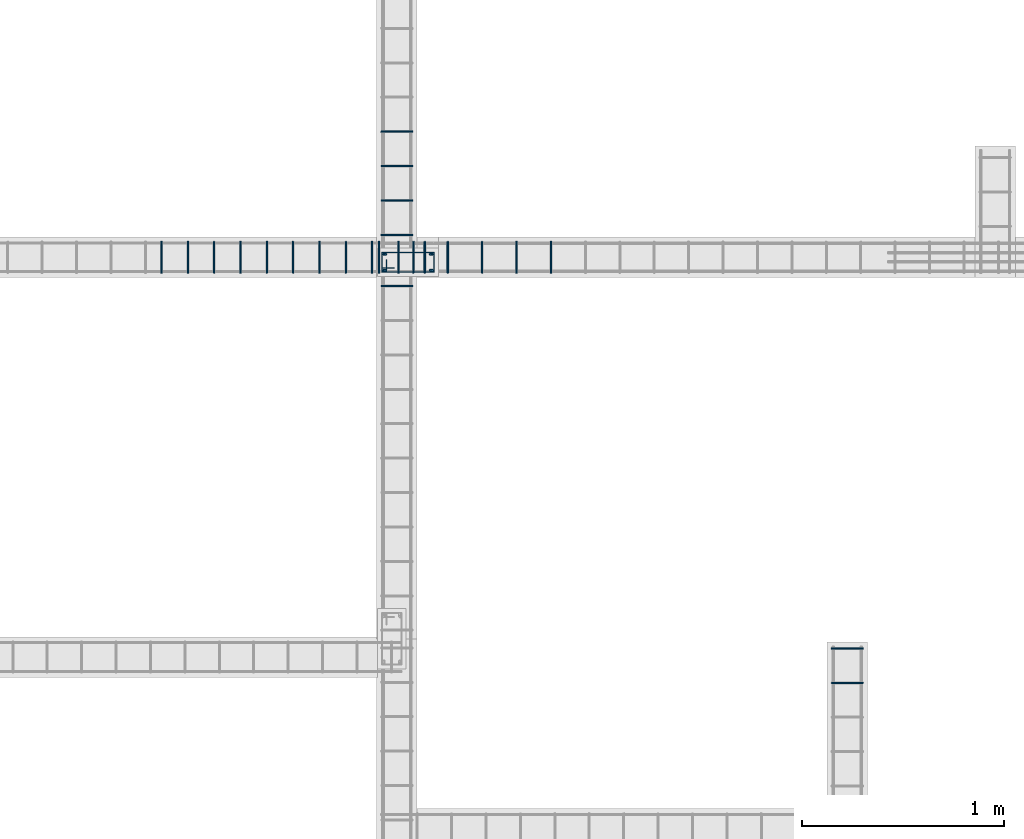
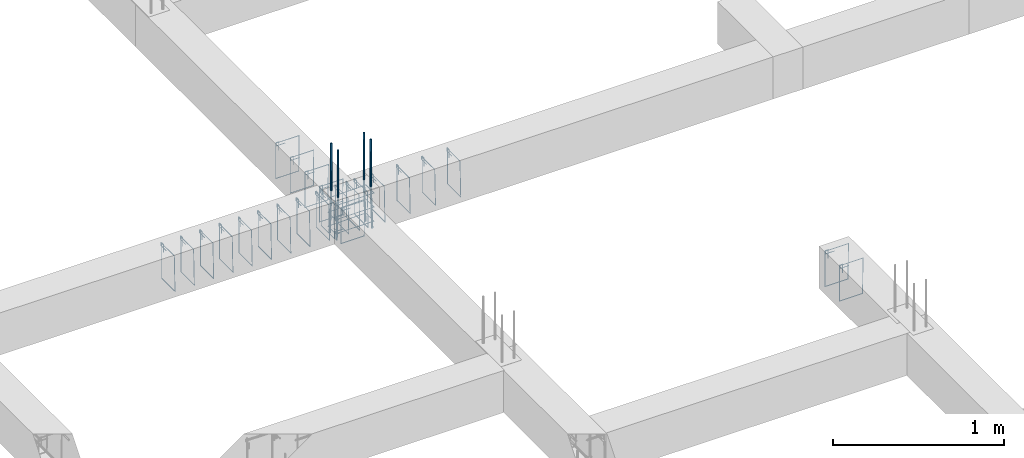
# One storey, part 49 of 150: 31 reinforcing bars.
"""IFC4 building model written with IfcOpenShell, lengths in centimetres."""

from ifc_helpers import new_model, entity, si_unit, derived_unit, frame, origin_with_axes, place, context, project, spatial, source, transform, mapped, element, save


model = new_model("IFC4")

# Units and contexts
model_context = context("Model", 3, precision=1e-05, world=origin_with_axes(), identifier="Body")
ifc_project = project(units=[si_unit("LENGTHUNIT", "METRE", prefix="CENTI"), si_unit("VOLUMEUNIT", "CUBIC_METRE"), si_unit("AREAUNIT", "SQUARE_METRE"), si_unit("POWERUNIT", "WATT"), si_unit("LUMINOUSFLUXUNIT", "LUMEN"), si_unit("ELECTRICCURRENTUNIT", "AMPERE"), si_unit("PRESSUREUNIT", "PASCAL", prefix="KILO"), si_unit("MASSUNIT", "GRAM", prefix="KILO"), si_unit("PLANEANGLEUNIT", "RADIAN"), derived_unit("VOLUMETRICFLOWRATEUNIT", [(si_unit("LENGTHUNIT", "METRE"), 3), (si_unit("TIMEUNIT", "SECOND"), -1)])], contexts=[model_context])

# Site, building, storey
site_placement = place(None, frame((-4000.0, 0.0, 0.0), z_axis=(0.0, 0.0, 1.0), x_axis=(1.0, 0.0, 0.0)))
site = spatial("IfcSite", under=ifc_project, at=site_placement, Name="PADRÃO")
building_placement = place(site_placement, frame((0.0, 0.0, -14.0)))
building = spatial("IfcBuilding", under=site, at=building_placement, Name="CRECHE PRÉ-ESCOLA TIPO 2")
placement = place(building_placement, origin_with_axes())
storey_placement = place(placement, frame((0.0, 0.0, 30.0), z_axis=(0.0, 0.0, 1.0), x_axis=(1.0, 0.0, 0.0)))
storey = spatial("IfcBuildingStorey", under=building, at=storey_placement, Name="VIGA BALDRAME", CompositionType="ELEMENT", Elevation=16.0)

# Reinforcing bars
shared_shape_1 = source(origin_with_axes(), model_context, "Body", "AdvancedSweptSolid", [
    entity("IfcSweptDiskSolid", entity("IfcCompositeCurve", [entity("IfcCompositeCurveSegment", "CONTINUOUS", True, entity("IfcPolyline", [entity("IfcCartesianPoint", [4.25, 21.75, 0.0]), entity("IfcCartesianPoint", [4.25, 27.75, 0.0])])), entity("IfcCompositeCurveSegment", "CONTINUOUS", True, entity("IfcPolyline", [entity("IfcCartesianPoint", [4.25, 27.75, 0.0]), entity("IfcCartesianPoint", [2.25, 27.75, 0.0])])), entity("IfcCompositeCurveSegment", "CONTINUOUS", True, entity("IfcPolyline", [entity("IfcCartesianPoint", [2.25, 27.75, 0.0]), entity("IfcCartesianPoint", [2.25, 2.25, 0.0])])), entity("IfcCompositeCurveSegment", "CONTINUOUS", True, entity("IfcPolyline", [entity("IfcCartesianPoint", [2.25, 2.25, 0.0]), entity("IfcCartesianPoint", [11.75, 2.25, 0.0])])), entity("IfcCompositeCurveSegment", "CONTINUOUS", True, entity("IfcPolyline", [entity("IfcCartesianPoint", [11.75, 2.25, 0.0]), entity("IfcCartesianPoint", [11.75, 27.75, -0.5])])), entity("IfcCompositeCurveSegment", "CONTINUOUS", True, entity("IfcPolyline", [entity("IfcCartesianPoint", [11.75, 27.75, -0.5]), entity("IfcCartesianPoint", [2.25, 27.75, -0.5])])), entity("IfcCompositeCurveSegment", "CONTINUOUS", True, entity("IfcPolyline", [entity("IfcCartesianPoint", [2.25, 27.75, -0.5]), entity("IfcCartesianPoint", [2.25, 25.75, -0.5])])), entity("IfcCompositeCurveSegment", "CONTINUOUS", True, entity("IfcPolyline", [entity("IfcCartesianPoint", [2.25, 25.75, -0.5]), entity("IfcCartesianPoint", [8.25, 25.75, -0.5])]))], False), 0.25),
])
for number, where, z_axis, x_axis, name in (
    (1, (2546.5, 1020.52, -25.0), (0.0, 0.0, 1.0), (0.0, 1.0, 0.0), "P122 - Estribo"),
    (2, (2546.5, 1020.52, -15.0), (0.0, 0.0, 1.0), (0.0, 1.0, 0.0), "P122 - Estribo"),
    (3, (2546.5, 1020.52, -5.0), (0.0, 0.0, 1.0), (0.0, 1.0, 0.0), "P122 - Estribo"),
):
    element("IfcReinforcingBar", number, at=place(storey_placement, frame(where, z_axis=z_axis, x_axis=x_axis)), inside=storey, Name=name, BarLength=0.0, CrossSectionArea=1.9634954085e-05, NominalDiameter=0.5, PredefinedType="MAIN", context=model_context, shape_type="MappedRepresentation", body=[
        mapped(shared_shape_1, transform((0.0, 0.0, 0.0), scale=1.0)),
    ])
shared_shape_2 = source(origin_with_axes(), model_context, "Body", "AdvancedSweptSolid", [
    entity("IfcSweptDiskSolid", entity("IfcCompositeCurve", [entity("IfcCompositeCurveSegment", "CONTINUOUS", True, entity("IfcPolyline", [entity("IfcCartesianPoint", [2.0, -6.0, 0.0]), entity("IfcCartesianPoint", [2.0, 0.0, 0.0])])), entity("IfcCompositeCurveSegment", "CONTINUOUS", True, entity("IfcPolyline", [entity("IfcCartesianPoint", [2.0, 0.0, 0.0]), entity("IfcCartesianPoint", [0.0, 0.0, 0.0])])), entity("IfcCompositeCurveSegment", "CONTINUOUS", True, entity("IfcPolyline", [entity("IfcCartesianPoint", [0.0, 0.0, 0.0]), entity("IfcCartesianPoint", [0.0, -25.5, 0.0])])), entity("IfcCompositeCurveSegment", "CONTINUOUS", True, entity("IfcPolyline", [entity("IfcCartesianPoint", [0.0, -25.5, 0.0]), entity("IfcCartesianPoint", [15.5, -25.5, 0.0])])), entity("IfcCompositeCurveSegment", "CONTINUOUS", True, entity("IfcPolyline", [entity("IfcCartesianPoint", [15.5, -25.5, 0.0]), entity("IfcCartesianPoint", [15.5, 0.0, 0.5])])), entity("IfcCompositeCurveSegment", "CONTINUOUS", True, entity("IfcPolyline", [entity("IfcCartesianPoint", [15.5, 0.0, 0.5]), entity("IfcCartesianPoint", [0.0, 0.0, 0.5])])), entity("IfcCompositeCurveSegment", "CONTINUOUS", True, entity("IfcPolyline", [entity("IfcCartesianPoint", [0.0, 0.0, 0.5]), entity("IfcCartesianPoint", [0.0, -2.0, 0.5])])), entity("IfcCompositeCurveSegment", "CONTINUOUS", True, entity("IfcPolyline", [entity("IfcCartesianPoint", [0.0, -2.0, 0.5]), entity("IfcCartesianPoint", [6.0, -2.0, 0.5])]))], False), 0.25),
])
reinforcing_bar_1_placement = place(storey_placement, frame((2518.25, 1016.02, -2.25), z_axis=(0.0, -1.0, 0.0), x_axis=(1.0, 0.0, 0.0)))
element("IfcReinforcingBar", 4, at=reinforcing_bar_1_placement, inside=storey, Name="V196 - Estribo", BarLength=0.0, CrossSectionArea=1.9634954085e-05, NominalDiameter=0.5, PredefinedType="MAIN", context=model_context, shape_type="MappedRepresentation", body=[
    mapped(shared_shape_2, transform((0.0, 0.0, 0.0), scale=1.0)),
])
shared_shape_3 = source(origin_with_axes(), model_context, "Body", "AdvancedSweptSolid", [
    entity("IfcSweptDiskSolid", entity("IfcCompositeCurve", [entity("IfcCompositeCurveSegment", "CONTINUOUS", True, entity("IfcPolyline", [entity("IfcCartesianPoint", [2.0, -6.0, 0.0]), entity("IfcCartesianPoint", [2.0, 0.0, 0.0])])), entity("IfcCompositeCurveSegment", "CONTINUOUS", True, entity("IfcPolyline", [entity("IfcCartesianPoint", [2.0, 0.0, 0.0]), entity("IfcCartesianPoint", [0.0, 0.0, 0.0])])), entity("IfcCompositeCurveSegment", "CONTINUOUS", True, entity("IfcPolyline", [entity("IfcCartesianPoint", [0.0, 0.0, 0.0]), entity("IfcCartesianPoint", [0.0, -25.5, 0.0])])), entity("IfcCompositeCurveSegment", "CONTINUOUS", True, entity("IfcPolyline", [entity("IfcCartesianPoint", [0.0, -25.5, 0.0]), entity("IfcCartesianPoint", [15.5, -25.5, 0.0])])), entity("IfcCompositeCurveSegment", "CONTINUOUS", True, entity("IfcPolyline", [entity("IfcCartesianPoint", [15.5, -25.5, 0.0]), entity("IfcCartesianPoint", [15.5, 0.0, 0.5])])), entity("IfcCompositeCurveSegment", "CONTINUOUS", True, entity("IfcPolyline", [entity("IfcCartesianPoint", [15.5, 0.0, 0.5]), entity("IfcCartesianPoint", [0.0, 0.0, 0.5])])), entity("IfcCompositeCurveSegment", "CONTINUOUS", True, entity("IfcPolyline", [entity("IfcCartesianPoint", [0.0, 0.0, 0.5]), entity("IfcCartesianPoint", [0.0, -2.0, 0.5])])), entity("IfcCompositeCurveSegment", "CONTINUOUS", True, entity("IfcPolyline", [entity("IfcCartesianPoint", [0.0, -2.0, 0.5]), entity("IfcCartesianPoint", [6.0, -2.0, 0.5])]))], False), 0.25),
])
for number, where, z_axis, x_axis, name in (
    (5, (2518.25, 1058.3, -2.25), (0.0, -1.0, 0.0), (1.0, 0.0, 0.0), "V196 - Estribo"),
    (6, (2518.25, 1092.3, -2.25), (0.0, -1.0, 0.0), (1.0, 0.0, 0.0), "V196 - Estribo"),
    (7, (2518.25, 1075.3, -2.25), (0.0, -1.0, 0.0), (1.0, 0.0, 0.0), "V196 - Estribo"),
    (8, (2518.25, 1041.3, -2.25), (0.0, -1.0, 0.0), (1.0, 0.0, 0.0), "V196 - Estribo"),
):
    element("IfcReinforcingBar", number, at=place(storey_placement, frame(where, z_axis=z_axis, x_axis=x_axis)), inside=storey, Name=name, BarLength=0.0, CrossSectionArea=1.9634954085e-05, NominalDiameter=0.5, PredefinedType="MAIN", context=model_context, shape_type="MappedRepresentation", body=[
        mapped(shared_shape_3, transform((0.0, 0.0, 0.0), scale=1.0)),
    ])
shared_shape_4 = source(origin_with_axes(), model_context, "Body", "AdvancedSweptSolid", [
    entity("IfcSweptDiskSolid", entity("IfcCompositeCurve", [entity("IfcCompositeCurveSegment", "CONTINUOUS", True, entity("IfcPolyline", [entity("IfcCartesianPoint", [2.0, -6.0, 0.0]), entity("IfcCartesianPoint", [2.0, 0.0, 0.0])])), entity("IfcCompositeCurveSegment", "CONTINUOUS", True, entity("IfcPolyline", [entity("IfcCartesianPoint", [2.0, 0.0, 0.0]), entity("IfcCartesianPoint", [0.0, 0.0, 0.0])])), entity("IfcCompositeCurveSegment", "CONTINUOUS", True, entity("IfcPolyline", [entity("IfcCartesianPoint", [0.0, 0.0, 0.0]), entity("IfcCartesianPoint", [0.0, -25.5, 0.0])])), entity("IfcCompositeCurveSegment", "CONTINUOUS", True, entity("IfcPolyline", [entity("IfcCartesianPoint", [0.0, -25.5, 0.0]), entity("IfcCartesianPoint", [15.5, -25.5, 0.0])])), entity("IfcCompositeCurveSegment", "CONTINUOUS", True, entity("IfcPolyline", [entity("IfcCartesianPoint", [15.5, -25.5, 0.0]), entity("IfcCartesianPoint", [15.5, 0.0, 0.5])])), entity("IfcCompositeCurveSegment", "CONTINUOUS", True, entity("IfcPolyline", [entity("IfcCartesianPoint", [15.5, 0.0, 0.5]), entity("IfcCartesianPoint", [0.0, 0.0, 0.5])])), entity("IfcCompositeCurveSegment", "CONTINUOUS", True, entity("IfcPolyline", [entity("IfcCartesianPoint", [0.0, 0.0, 0.5]), entity("IfcCartesianPoint", [0.0, -2.0, 0.5])])), entity("IfcCompositeCurveSegment", "CONTINUOUS", True, entity("IfcPolyline", [entity("IfcCartesianPoint", [0.0, -2.0, 0.5]), entity("IfcCartesianPoint", [6.0, -2.0, 0.5])]))], False), 0.25),
])
for number, where, z_axis, x_axis, name in (
    (9, (2740.71, 837.04, -2.25), (0.0, -1.0, 0.0), (1.0, 0.0, 0.0), "V203 - Estribo"),
    (10, (2740.71, 820.04, -2.25), (0.0, -1.0, 0.0), (1.0, 0.0, 0.0), "V203 - Estribo"),
):
    element("IfcReinforcingBar", number, at=place(storey_placement, frame(where, z_axis=z_axis, x_axis=x_axis)), inside=storey, Name=name, BarLength=0.0, CrossSectionArea=1.9634954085e-05, NominalDiameter=0.5, PredefinedType="MAIN", context=model_context, shape_type="MappedRepresentation", body=[
        mapped(shared_shape_4, transform((0.0, 0.0, 0.0), scale=1.0)),
    ])
shared_shape_5 = source(origin_with_axes(), model_context, "Body", "AdvancedSweptSolid", [
    entity("IfcSweptDiskSolid", entity("IfcCompositeCurve", [entity("IfcCompositeCurveSegment", "CONTINUOUS", True, entity("IfcPolyline", [entity("IfcCartesianPoint", [2.0, -6.0, 0.0]), entity("IfcCartesianPoint", [2.0, 0.0, 0.0])])), entity("IfcCompositeCurveSegment", "CONTINUOUS", True, entity("IfcPolyline", [entity("IfcCartesianPoint", [2.0, 0.0, 0.0]), entity("IfcCartesianPoint", [0.0, 0.0, 0.0])])), entity("IfcCompositeCurveSegment", "CONTINUOUS", True, entity("IfcPolyline", [entity("IfcCartesianPoint", [0.0, 0.0, 0.0]), entity("IfcCartesianPoint", [0.0, -25.5, 0.0])])), entity("IfcCompositeCurveSegment", "CONTINUOUS", True, entity("IfcPolyline", [entity("IfcCartesianPoint", [0.0, -25.5, 0.0]), entity("IfcCartesianPoint", [15.5, -25.5, 0.0])])), entity("IfcCompositeCurveSegment", "CONTINUOUS", True, entity("IfcPolyline", [entity("IfcCartesianPoint", [15.5, -25.5, 0.0]), entity("IfcCartesianPoint", [15.5, 0.0, 0.5])])), entity("IfcCompositeCurveSegment", "CONTINUOUS", True, entity("IfcPolyline", [entity("IfcCartesianPoint", [15.5, 0.0, 0.5]), entity("IfcCartesianPoint", [0.0, 0.0, 0.5])])), entity("IfcCompositeCurveSegment", "CONTINUOUS", True, entity("IfcPolyline", [entity("IfcCartesianPoint", [0.0, 0.0, 0.5]), entity("IfcCartesianPoint", [0.0, -2.0, 0.5])])), entity("IfcCompositeCurveSegment", "CONTINUOUS", True, entity("IfcPolyline", [entity("IfcCartesianPoint", [0.0, -2.0, 0.5]), entity("IfcCartesianPoint", [6.0, -2.0, 0.5])]))], False), 0.25),
])
for number, where, z_axis, x_axis, name in (
    (11, (2527.0, 1037.76, -2.25), (-1.0, 0.0, 0.0), (0.0, -1.0, 0.0), "V142 - Estribo"),
    (12, (2540.0, 1037.76, -2.25), (-1.0, 0.0, 0.0), (0.0, -1.0, 0.0), "V142 - Estribo"),
    (13, (2514.0, 1037.76, -2.25), (-1.0, 0.0, 0.0), (0.0, -1.0, 0.0), "V142 - Estribo"),
    (14, (2501.0, 1037.76, -2.25), (-1.0, 0.0, 0.0), (0.0, -1.0, 0.0), "V142 - Estribo"),
    (15, (2488.0, 1037.76, -2.25), (-1.0, 0.0, 0.0), (0.0, -1.0, 0.0), "V142 - Estribo"),
    (16, (2423.0, 1037.76, -2.25), (-1.0, 0.0, 0.0), (0.0, -1.0, 0.0), "V142 - Estribo"),
    (17, (2410.0, 1037.76, -2.25), (-1.0, 0.0, 0.0), (0.0, -1.0, 0.0), "V142 - Estribo"),
    (18, (2449.0, 1037.76, -2.25), (-1.0, 0.0, 0.0), (0.0, -1.0, 0.0), "V142 - Estribo"),
    (19, (2462.0, 1037.76, -2.25), (-1.0, 0.0, 0.0), (0.0, -1.0, 0.0), "V142 - Estribo"),
    (20, (2436.0, 1037.76, -2.25), (-1.0, 0.0, 0.0), (0.0, -1.0, 0.0), "V142 - Estribo"),
    (21, (2475.0, 1037.76, -2.25), (-1.0, 0.0, 0.0), (0.0, -1.0, 0.0), "V142 - Estribo"),
):
    element("IfcReinforcingBar", number, at=place(storey_placement, frame(where, z_axis=z_axis, x_axis=x_axis)), inside=storey, Name=name, BarLength=0.0, CrossSectionArea=1.9634954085e-05, NominalDiameter=0.5, PredefinedType="MAIN", context=model_context, shape_type="MappedRepresentation", body=[
        mapped(shared_shape_5, transform((0.0, 0.0, 0.0), scale=1.0)),
    ])
shared_shape_6 = source(origin_with_axes(), model_context, "Body", "AdvancedSweptSolid", [
    entity("IfcSweptDiskSolid", entity("IfcCompositeCurve", [entity("IfcCompositeCurveSegment", "CONTINUOUS", True, entity("IfcPolyline", [entity("IfcCartesianPoint", [2.0, -6.0, 0.0]), entity("IfcCartesianPoint", [2.0, 0.0, 0.0])])), entity("IfcCompositeCurveSegment", "CONTINUOUS", True, entity("IfcPolyline", [entity("IfcCartesianPoint", [2.0, 0.0, 0.0]), entity("IfcCartesianPoint", [0.0, 0.0, 0.0])])), entity("IfcCompositeCurveSegment", "CONTINUOUS", True, entity("IfcPolyline", [entity("IfcCartesianPoint", [0.0, 0.0, 0.0]), entity("IfcCartesianPoint", [0.0, -25.5, 0.0])])), entity("IfcCompositeCurveSegment", "CONTINUOUS", True, entity("IfcPolyline", [entity("IfcCartesianPoint", [0.0, -25.5, 0.0]), entity("IfcCartesianPoint", [15.5, -25.5, 0.0])])), entity("IfcCompositeCurveSegment", "CONTINUOUS", True, entity("IfcPolyline", [entity("IfcCartesianPoint", [15.5, -25.5, 0.0]), entity("IfcCartesianPoint", [15.5, 0.0, 0.5])])), entity("IfcCompositeCurveSegment", "CONTINUOUS", True, entity("IfcPolyline", [entity("IfcCartesianPoint", [15.5, 0.0, 0.5]), entity("IfcCartesianPoint", [0.0, 0.0, 0.5])])), entity("IfcCompositeCurveSegment", "CONTINUOUS", True, entity("IfcPolyline", [entity("IfcCartesianPoint", [0.0, 0.0, 0.5]), entity("IfcCartesianPoint", [0.0, -2.0, 0.5])])), entity("IfcCompositeCurveSegment", "CONTINUOUS", True, entity("IfcPolyline", [entity("IfcCartesianPoint", [0.0, -2.0, 0.5]), entity("IfcCartesianPoint", [6.0, -2.0, 0.5])]))], False), 0.25),
])
for number, where, z_axis, x_axis, name in (
    (22, (2602.37, 1037.76, -2.25), (-1.0, 0.0, 0.0), (0.0, -1.0, 0.0), "V143 - Estribo"),
    (23, (2585.37, 1037.76, -2.25), (-1.0, 0.0, 0.0), (0.0, -1.0, 0.0), "V143 - Estribo"),
    (24, (2568.37, 1037.76, -2.25), (-1.0, 0.0, 0.0), (0.0, -1.0, 0.0), "V143 - Estribo"),
    (25, (2551.37, 1037.76, -2.25), (-1.0, 0.0, 0.0), (0.0, -1.0, 0.0), "V143 - Estribo"),
    (26, (2517.37, 1037.76, -2.25), (-1.0, 0.0, 0.0), (0.0, -1.0, 0.0), "V143 - Estribo"),
    (27, (2534.37, 1037.76, -2.25), (-1.0, 0.0, 0.0), (0.0, -1.0, 0.0), "V143 - Estribo"),
):
    element("IfcReinforcingBar", number, at=place(storey_placement, frame(where, z_axis=z_axis, x_axis=x_axis)), inside=storey, Name=name, BarLength=0.0, CrossSectionArea=1.9634954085e-05, NominalDiameter=0.5, PredefinedType="MAIN", context=model_context, shape_type="MappedRepresentation", body=[
        mapped(shared_shape_6, transform((0.0, 0.0, 0.0), scale=1.0)),
    ])
reinforcing_bar_2_placement = place(storey_placement, frame((2520.00013877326, 1031.52, 33.3573001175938), z_axis=(0.0, 0.0, 1.0), x_axis=(1.0, 0.0, 0.0)))
element("IfcReinforcingBar", 28, at=reinforcing_bar_2_placement, inside=storey, Name="P122 - Longitudinal", BarLength=0.0, CrossSectionArea=7.853981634e-05, NominalDiameter=1.0, PredefinedType="MAIN", context=model_context, shape_type="AdvancedSweptSolid", body=[
    entity("IfcSweptDiskSolid", entity("IfcCompositeCurve", [entity("IfcCompositeCurveSegment", "CONTINUOUS", True, entity("IfcPolyline", [entity("IfcCartesianPoint", [-0.500138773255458, 0.0, -63.3573001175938]), entity("IfcCartesianPoint", [0.499861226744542, 0.0, -33.3573001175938])])), entity("IfcCompositeCurveSegment", "CONTINUOUS", True, entity("IfcPolyline", [entity("IfcCartesianPoint", [0.499861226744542, 0.0, -33.3573001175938]), entity("IfcCartesianPoint", [0.499861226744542, 0.0, 0.0])]))], False), 0.5),
])
reinforcing_bar_3_placement = place(storey_placement, frame((2542.99986122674, 1031.52, 33.3573001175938), z_axis=(0.0, 0.0, 1.0), x_axis=(1.0, 0.0, 0.0)))
element("IfcReinforcingBar", 29, at=reinforcing_bar_3_placement, inside=storey, Name="P122 - Longitudinal", BarLength=0.0, CrossSectionArea=7.853981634e-05, NominalDiameter=1.0, PredefinedType="MAIN", context=model_context, shape_type="AdvancedSweptSolid", body=[
    entity("IfcSweptDiskSolid", entity("IfcCompositeCurve", [entity("IfcCompositeCurveSegment", "CONTINUOUS", True, entity("IfcPolyline", [entity("IfcCartesianPoint", [0.500138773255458, 0.0, -63.3573001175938]), entity("IfcCartesianPoint", [-0.499861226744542, 0.0, -33.3573001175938])])), entity("IfcCompositeCurveSegment", "CONTINUOUS", True, entity("IfcPolyline", [entity("IfcCartesianPoint", [-0.499861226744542, 0.0, -33.3573001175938]), entity("IfcCartesianPoint", [-0.499861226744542, 0.0, 0.0])]))], False), 0.5),
])
reinforcing_bar_4_placement = place(storey_placement, frame((2520.00013877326, 1023.52, 33.3573001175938), z_axis=(0.0, 0.0, 1.0), x_axis=(1.0, 0.0, 0.0)))
element("IfcReinforcingBar", 30, at=reinforcing_bar_4_placement, inside=storey, Name="P122 - Longitudinal", BarLength=0.0, CrossSectionArea=7.853981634e-05, NominalDiameter=1.0, PredefinedType="MAIN", context=model_context, shape_type="AdvancedSweptSolid", body=[
    entity("IfcSweptDiskSolid", entity("IfcCompositeCurve", [entity("IfcCompositeCurveSegment", "CONTINUOUS", True, entity("IfcPolyline", [entity("IfcCartesianPoint", [-0.500138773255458, 0.0, -63.3573001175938]), entity("IfcCartesianPoint", [0.499861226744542, 0.0, -33.3573001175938])])), entity("IfcCompositeCurveSegment", "CONTINUOUS", True, entity("IfcPolyline", [entity("IfcCartesianPoint", [0.499861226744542, 0.0, -33.3573001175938]), entity("IfcCartesianPoint", [0.499861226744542, 0.0, 0.0])]))], False), 0.5),
])
reinforcing_bar_5_placement = place(storey_placement, frame((2542.99986122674, 1023.52, 33.3573001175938), z_axis=(0.0, 0.0, 1.0), x_axis=(1.0, 0.0, 0.0)))
element("IfcReinforcingBar", 31, at=reinforcing_bar_5_placement, inside=storey, Name="P122 - Longitudinal", BarLength=0.0, CrossSectionArea=7.853981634e-05, NominalDiameter=1.0, PredefinedType="MAIN", context=model_context, shape_type="AdvancedSweptSolid", body=[
    entity("IfcSweptDiskSolid", entity("IfcCompositeCurve", [entity("IfcCompositeCurveSegment", "CONTINUOUS", True, entity("IfcPolyline", [entity("IfcCartesianPoint", [0.500138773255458, 0.0, -63.3573001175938]), entity("IfcCartesianPoint", [-0.499861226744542, 0.0, -33.3573001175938])])), entity("IfcCompositeCurveSegment", "CONTINUOUS", True, entity("IfcPolyline", [entity("IfcCartesianPoint", [-0.499861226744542, 0.0, -33.3573001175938]), entity("IfcCartesianPoint", [-0.499861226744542, 0.0, 0.0])]))], False), 0.5),
])

save(model, "model.ifc")
